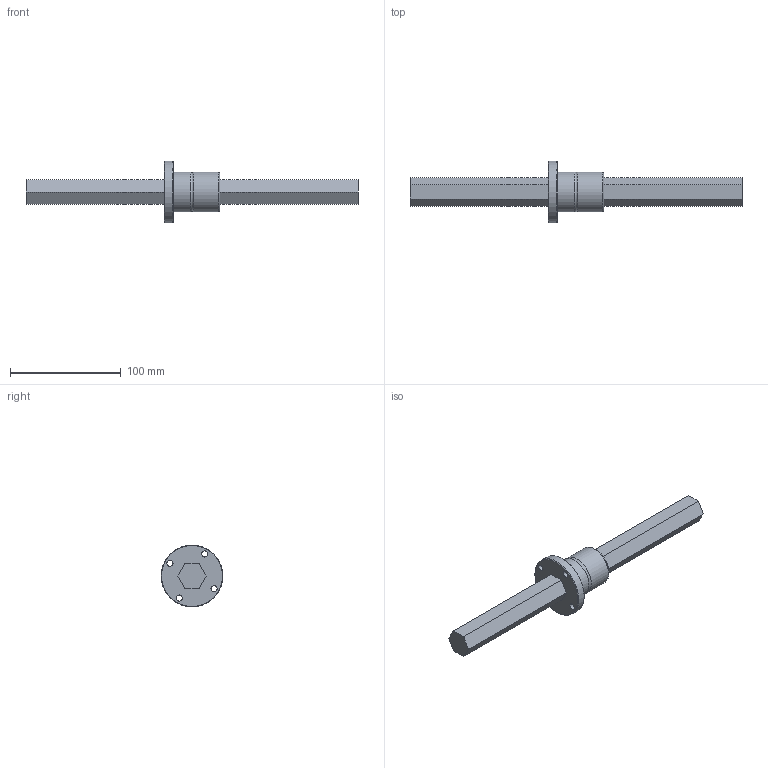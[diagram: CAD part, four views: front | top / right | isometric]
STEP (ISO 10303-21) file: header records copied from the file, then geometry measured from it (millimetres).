
FILE_DESCRIPTION((''),'2;1');
FILE_NAME('D:\製品 (図面)\カタログ用3D\ネジ関連\STEP形式\HTF\HTF22.stp','2010-06-01T16:48:25',('Tsuchiya'),(''),'Autodesk Inventor 10','Autodesk Inventor 10','');
FILE_SCHEMA(('AUTOMOTIVE_DESIGN { 1 0 10303 214 1 1 1 1 }'));
Length unit declared in the file: millimetre
Products named in the file (3): HTF22; HTF221; HTF222
Assembly tree (2 placements, depth 2):
  HTF22
    HTF221
    HTF222
Bounding box: 300 x 56 x 56 mm (x, y, z)
Volume: 165866.9 mm3; surface area: 38243 mm2
Topology: 2 solids, 2 shells, 39 faces, 96 edges, 64 vertices
Faces by surface type: plane 25, cylinder 9, cone 2, bspline 2, torus 1
Full cylindrical faces by diameter (mm): 2 x1, 5.5 x4, 26.5 x1, 36 x2, 56 x1
Entity records: 1335 total; most frequent: CARTESIAN_POINT 399, DIRECTION 178, ORIENTED_EDGE 152, EDGE_CURVE 76, EDGE_LOOP 68, AXIS2_PLACEMENT_3D 62, VERTEX_POINT 58, VECTOR 54
